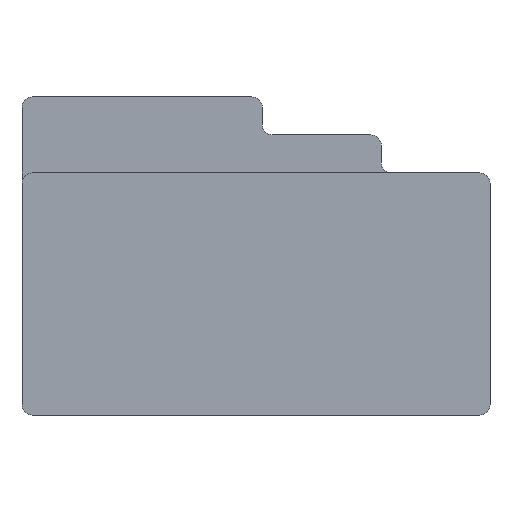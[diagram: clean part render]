
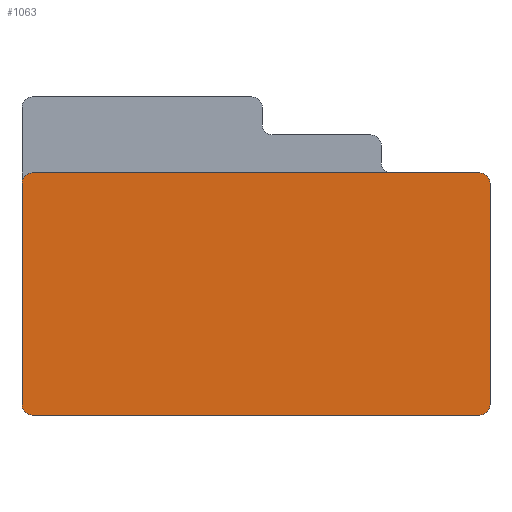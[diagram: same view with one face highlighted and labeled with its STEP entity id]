
A CAD part, front view. The second image highlights one B-rep face of the part: STEP entity #1063.
In plain terms, the highlighted planar face has unit normal (0, -1, 0).
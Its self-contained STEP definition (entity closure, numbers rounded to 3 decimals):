
#190=CARTESIAN_POINT('',(-10.9,-11.6,11.3));
#191=DIRECTION('',(0.,-1.,0.));
#192=DIRECTION('',(0.,0.,1.));
#193=AXIS2_PLACEMENT_3D('',#190,#191,#192);
#195=CARTESIAN_POINT('',(10.9,-11.6,11.3));
#196=DIRECTION('',(0.,-1.,0.));
#197=DIRECTION('',(1.,0.,0.));
#198=AXIS2_PLACEMENT_3D('',#195,#196,#197);
#200=CARTESIAN_POINT('',(10.9,-11.6,0.5));
#201=DIRECTION('',(0.,-1.,0.));
#202=DIRECTION('',(0.,0.,-1.));
#203=AXIS2_PLACEMENT_3D('',#200,#201,#202);
#205=CARTESIAN_POINT('',(-10.9,-11.6,0.5));
#206=DIRECTION('',(0.,-1.,0.));
#207=DIRECTION('',(-1.,0.,0.));
#208=AXIS2_PLACEMENT_3D('',#205,#206,#207);
#210=DIRECTION('',(0.,0.,1.));
#211=VECTOR('',#210,10.8);
#212=CARTESIAN_POINT('',(-11.4,-11.6,0.5));
#213=LINE('',#212,#211);
#298=DIRECTION('',(1.,0.,0.));
#299=VECTOR('',#298,21.8);
#300=CARTESIAN_POINT('',(-10.9,-11.6,11.8));
#301=LINE('',#300,#299);
#490=DIRECTION('',(1.,0.,0.));
#491=VECTOR('',#490,21.8);
#492=CARTESIAN_POINT('',(-10.9,-11.6,0.));
#493=LINE('',#492,#491);
#560=DIRECTION('',(0.,0.,1.));
#561=VECTOR('',#560,10.8);
#562=CARTESIAN_POINT('',(11.4,-11.6,0.5));
#563=LINE('',#562,#561);
#688=CARTESIAN_POINT('',(-10.9,-11.6,11.8));
#689=CARTESIAN_POINT('',(-11.4,-11.6,11.3));
#690=VERTEX_POINT('',#688);
#691=VERTEX_POINT('',#689);
#716=CARTESIAN_POINT('',(11.4,-11.6,11.3));
#717=VERTEX_POINT('',#716);
#718=CARTESIAN_POINT('',(10.9,-11.6,11.8));
#719=VERTEX_POINT('',#718);
#720=CARTESIAN_POINT('',(10.9,-11.6,0.));
#721=CARTESIAN_POINT('',(11.4,-11.6,0.5));
#722=VERTEX_POINT('',#720);
#723=VERTEX_POINT('',#721);
#732=CARTESIAN_POINT('',(-11.4,-11.6,0.5));
#733=VERTEX_POINT('',#732);
#734=CARTESIAN_POINT('',(-10.9,-11.6,0.));
#735=VERTEX_POINT('',#734);
#1041=CARTESIAN_POINT('',(-11.4,-11.6,0.));
#1042=DIRECTION('',(0.,-1.,0.));
#1043=DIRECTION('',(1.,0.,0.));
#1044=AXIS2_PLACEMENT_3D('',#1041,#1042,#1043);
#1045=PLANE('',#1044);
#1047=ORIENTED_EDGE('',*,*,#1046,.F.);
#1049=ORIENTED_EDGE('',*,*,#1048,.T.);
#1051=ORIENTED_EDGE('',*,*,#1050,.F.);
#1053=ORIENTED_EDGE('',*,*,#1052,.F.);
#1054=ORIENTED_EDGE('',*,*,#1031,.F.);
#1056=ORIENTED_EDGE('',*,*,#1055,.F.);
#1058=ORIENTED_EDGE('',*,*,#1057,.F.);
#1060=ORIENTED_EDGE('',*,*,#1059,.T.);
#1061=EDGE_LOOP('',(#1047,#1049,#1051,#1053,#1054,#1056,#1058,#1060));
#1062=FACE_OUTER_BOUND('',#1061,.F.);
#1063=ADVANCED_FACE('',(#1062),#1045,.T.);
#194=CIRCLE('',#193,0.5);
#199=CIRCLE('',#198,0.5);
#204=CIRCLE('',#203,0.5);
#209=CIRCLE('',#208,0.5);
#1031=EDGE_CURVE('',#722,#723,#204,.T.);
#1046=EDGE_CURVE('',#690,#691,#194,.T.);
#1048=EDGE_CURVE('',#690,#719,#301,.T.);
#1050=EDGE_CURVE('',#717,#719,#199,.T.);
#1052=EDGE_CURVE('',#723,#717,#563,.T.);
#1055=EDGE_CURVE('',#735,#722,#493,.T.);
#1057=EDGE_CURVE('',#733,#735,#209,.T.);
#1059=EDGE_CURVE('',#733,#691,#213,.T.);
